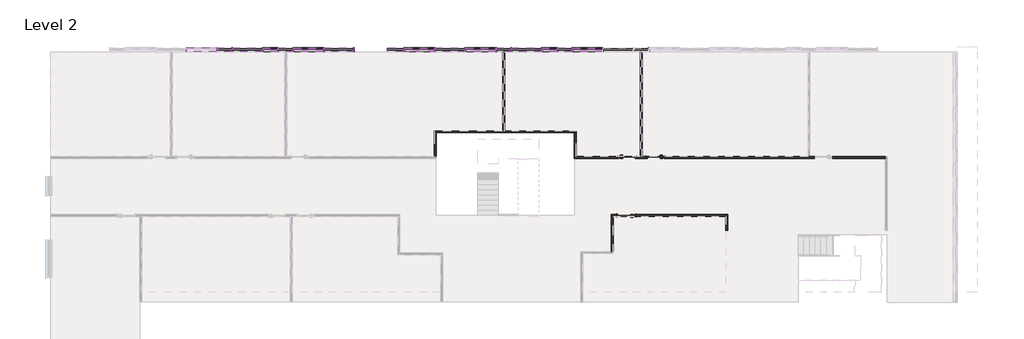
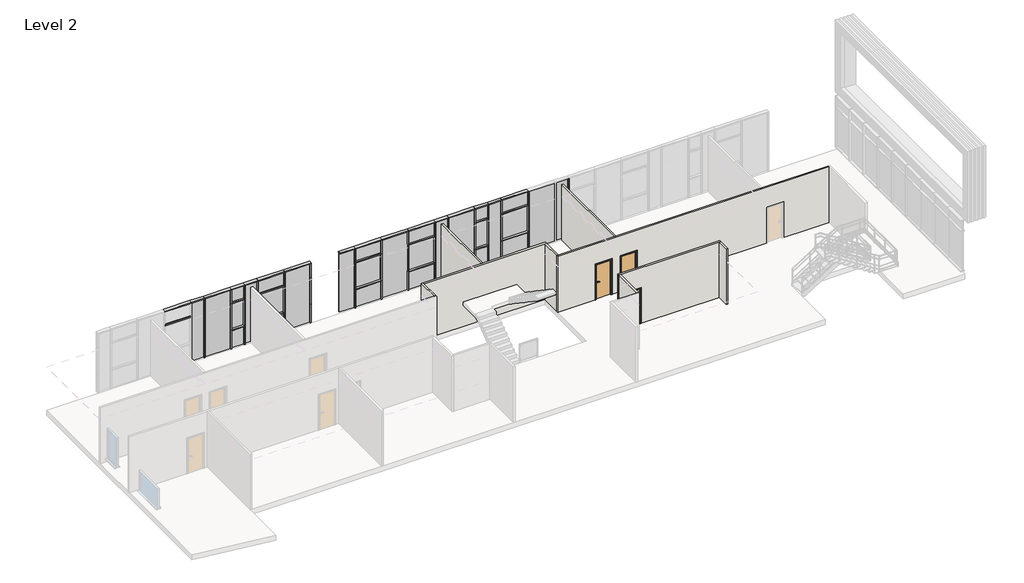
# One storey, part 3 of 7: 77 members, 29 plates, 9 walls, 3 doors.
"""IFC4 building model written with IfcOpenShell, lengths in millimetres."""

from ifc_helpers import new_model, si_unit, frame, origin, place, context, project, spatial, polyline, outline, extrude, faceted_brep, transform, mapped, element, save
from components import doors_intsgl_1_910x2110mm_004a08d5, doors_intsgl_1_910x2110mm_ba118736, rectangular_mullion_50x180mm_27940352, rectangular_mullion_50x180mm_f781141c, rectangular_mullion_50x180mm_fd91253e, rectangular_mullion_50x180mm_cfc9efda, rectangular_mullion_50x180mm_c30fec06, rectangular_mullion_50x180mm_55b63a96, rectangular_mullion_50x180mm_95299f7d, rectangular_mullion_50x180mm_7153291d, rectangular_mullion_50x180mm_44ee472d, rectangular_mullion_50x180mm_bfae1b57, rectangular_mullion_50x180mm_1c28dd9e, system_panel_black_panel_33968e5e, system_panel_black_panel_b553a8d2, system_panel_black_panel_68769a9a, system_panel_dark_grey_panel_97f951a3, system_panel_dark_grey_panel_4b19a003, system_panel_dark_grey_panel_97a7edae, system_panel_glazed_dd63f223, system_panel_glazed_4915e1a0, system_panel_white_panel_6a64f577, system_panel_white_panel_a9ca731a, system_panel_white_panel_dc489aa2, system_panel_white_panel_659cbcf8

model = new_model("IFC4")

# Units and contexts
model_context = context("Model", 3, world=origin())
ifc_project = project(units=[si_unit("LENGTHUNIT", "METRE", prefix="MILLI")], contexts=[model_context])

# Site, building, storey
site = spatial("IfcSite", under=ifc_project)
building = spatial("IfcBuilding", under=site)
storey = spatial("IfcBuildingStorey", under=building, Name="Level 2", Elevation=7450.0)

# Doors
placement = place(None, origin())
doors_intsgl_1_910x2110mm_shape = doors_intsgl_1_910x2110mm_004a08d5(model_context)
element("IfcDoor", 1, ObjectType="Doors_IntSgl_1 : 910x2110mm", at=placement, inside=storey, context=model_context, shape_type="MappedRepresentation", body=[
    mapped(doors_intsgl_1_910x2110mm_shape, transform((26878.2942367, 3837.3025486, 7450.0), x_axis=(1.0, 0.0, 0.0), y_axis=(0.0, 1.0, 0.0), z_axis=(0.0, 0.0, 1.0))),
])
element("IfcDoor", 2, ObjectType="Doors_IntSgl_1 : 910x2110mm", at=placement, inside=storey, context=model_context, shape_type="MappedRepresentation", body=[
    mapped(doors_intsgl_1_910x2110mm_shape, transform((26848.2942367, 987.4946591, 7450.0), x_axis=(-1.0, 0.0, 0.0), y_axis=(0.0, -1.0, 0.0), z_axis=(0.0, 0.0, 1.0))),
])
doors_intsgl_1_910x2110mm_2_shape = doors_intsgl_1_910x2110mm_ba118736(model_context)
element("IfcDoor", 3, ObjectType="Doors_IntSgl_1 : 910x2110mm", at=placement, inside=storey, context=model_context, shape_type="MappedRepresentation", body=[
    mapped(doors_intsgl_1_910x2110mm_2_shape, transform((28283.2942367, 3837.3025486, 7450.0), x_axis=(-1.0, 0.0, 0.0), y_axis=(0.0, -1.0, 0.0), z_axis=(0.0, 0.0, 1.0))),
])

# Members
rectangular_mullion_50x180mm_shape = rectangular_mullion_50x180mm_27940352(model_context)
element("IfcMember", 4, ObjectType="Rectangular Mullion : 50x180mm", at=placement, inside=storey, context=model_context, shape_type="MappedRepresentation", body=[
    mapped(rectangular_mullion_50x180mm_shape, transform((27943.2942367, 9132.4946591, 7450.0), x_axis=(1.0, 0.0, 0.0), y_axis=(0.0, -1.0, 0.0), z_axis=(0.0, 0.0, -1.0))),
])
element("IfcMember", 5, ObjectType="Rectangular Mullion : 50x180mm", at=placement, inside=storey, context=model_context, shape_type="MappedRepresentation", body=[
    mapped(rectangular_mullion_50x180mm_shape, transform((25693.2942367, 9132.4946591, 7450.0), x_axis=(1.0, 0.0, 0.0), y_axis=(0.0, -1.0, 0.0), z_axis=(0.0, 0.0, -1.0))),
])
element("IfcMember", 6, ObjectType="Rectangular Mullion : 50x180mm", at=placement, inside=storey, context=model_context, shape_type="MappedRepresentation", body=[
    mapped(rectangular_mullion_50x180mm_shape, transform((24193.2942367, 9132.4946591, 7450.0), x_axis=(1.0, 0.0, 0.0), y_axis=(0.0, -1.0, 0.0), z_axis=(0.0, 0.0, -1.0))),
])
element("IfcMember", 7, ObjectType="Rectangular Mullion : 50x180mm", at=placement, inside=storey, context=model_context, shape_type="MappedRepresentation", body=[
    mapped(rectangular_mullion_50x180mm_shape, transform((23443.2942367, 9132.4946591, 7450.0), x_axis=(1.0, 0.0, 0.0), y_axis=(0.0, -1.0, 0.0), z_axis=(0.0, 0.0, -1.0))),
])
element("IfcMember", 8, ObjectType="Rectangular Mullion : 50x180mm", at=placement, inside=storey, context=model_context, shape_type="MappedRepresentation", body=[
    mapped(rectangular_mullion_50x180mm_shape, transform((22693.2942367, 9132.4946591, 7450.0), x_axis=(1.0, 0.0, 0.0), y_axis=(0.0, -1.0, 0.0), z_axis=(0.0, 0.0, -1.0))),
])
element("IfcMember", 9, ObjectType="Rectangular Mullion : 50x180mm", at=placement, inside=storey, context=model_context, shape_type="MappedRepresentation", body=[
    mapped(rectangular_mullion_50x180mm_shape, transform((20443.2942367, 9132.4946591, 7450.0), x_axis=(1.0, 0.0, 0.0), y_axis=(0.0, -1.0, 0.0), z_axis=(0.0, 0.0, -1.0))),
])
element("IfcMember", 10, ObjectType="Rectangular Mullion : 50x180mm", at=placement, inside=storey, context=model_context, shape_type="MappedRepresentation", body=[
    mapped(rectangular_mullion_50x180mm_shape, transform((18943.2942367, 9132.4946591, 7450.0), x_axis=(1.0, 0.0, 0.0), y_axis=(0.0, -1.0, 0.0), z_axis=(0.0, 0.0, -1.0))),
])
element("IfcMember", 11, ObjectType="Rectangular Mullion : 50x180mm", at=placement, inside=storey, context=model_context, shape_type="MappedRepresentation", body=[
    mapped(rectangular_mullion_50x180mm_shape, transform((15943.2942367, 9132.4946591, 7450.0), x_axis=(1.0, 0.0, 0.0), y_axis=(0.0, -1.0, 0.0), z_axis=(0.0, 0.0, -1.0))),
])
element("IfcMember", 12, ObjectType="Rectangular Mullion : 50x180mm", at=placement, inside=storey, context=model_context, shape_type="MappedRepresentation", body=[
    mapped(rectangular_mullion_50x180mm_shape, transform((17443.2942367, 9132.4946591, 7450.0), x_axis=(1.0, 0.0, 0.0), y_axis=(0.0, -1.0, 0.0), z_axis=(0.0, 0.0, -1.0))),
])
element("IfcMember", 13, ObjectType="Rectangular Mullion : 50x180mm", at=placement, inside=storey, context=model_context, shape_type="MappedRepresentation", body=[
    mapped(rectangular_mullion_50x180mm_shape, transform((11980.7942367, 9132.4946591, 7450.0), x_axis=(1.0, 0.0, 0.0), y_axis=(0.0, -1.0, 0.0), z_axis=(0.0, 0.0, -1.0))),
])
element("IfcMember", 14, ObjectType="Rectangular Mullion : 50x180mm", at=placement, inside=storey, context=model_context, shape_type="MappedRepresentation", body=[
    mapped(rectangular_mullion_50x180mm_shape, transform((10480.7942367, 9132.4946591, 7450.0), x_axis=(1.0, 0.0, 0.0), y_axis=(0.0, -1.0, 0.0), z_axis=(0.0, 0.0, -1.0))),
])
element("IfcMember", 15, ObjectType="Rectangular Mullion : 50x180mm", at=placement, inside=storey, context=model_context, shape_type="MappedRepresentation", body=[
    mapped(rectangular_mullion_50x180mm_shape, transform((9730.7942367, 9132.4946591, 7450.0), x_axis=(1.0, 0.0, 0.0), y_axis=(0.0, -1.0, 0.0), z_axis=(0.0, 0.0, -1.0))),
])
element("IfcMember", 16, ObjectType="Rectangular Mullion : 50x180mm", at=placement, inside=storey, context=model_context, shape_type="MappedRepresentation", body=[
    mapped(rectangular_mullion_50x180mm_shape, transform((8980.7942367, 9132.4946591, 7450.0), x_axis=(1.0, 0.0, 0.0), y_axis=(0.0, -1.0, 0.0), z_axis=(0.0, 0.0, -1.0))),
])
element("IfcMember", 17, ObjectType="Rectangular Mullion : 50x180mm", at=placement, inside=storey, context=model_context, shape_type="MappedRepresentation", body=[
    mapped(rectangular_mullion_50x180mm_shape, transform((21193.2942367, 9132.4946591, 7450.0), x_axis=(1.0, 0.0, 0.0), y_axis=(0.0, -1.0, 0.0), z_axis=(0.0, 0.0, -1.0))),
])
element("IfcMember", 18, ObjectType="Rectangular Mullion : 50x180mm", at=placement, inside=storey, context=model_context, shape_type="MappedRepresentation", body=[
    mapped(rectangular_mullion_50x180mm_shape, transform((7480.7942367, 9132.4946591, 7450.0), x_axis=(1.0, 0.0, 0.0), y_axis=(0.0, -1.0, 0.0), z_axis=(0.0, 0.0, -1.0))),
])
rectangular_mullion_50x180mm_2_shape = rectangular_mullion_50x180mm_f781141c(model_context)
element("IfcMember", 19, ObjectType="Rectangular Mullion : 50x180mm", at=placement, inside=storey, context=model_context, shape_type="MappedRepresentation", body=[
    mapped(rectangular_mullion_50x180mm_2_shape, transform((27943.2942367, 9132.4946591, 8550.0), x_axis=(1.0, 0.0, 0.0), y_axis=(0.0, -1.0, 0.0), z_axis=(0.0, 0.0, -1.0))),
])
element("IfcMember", 20, ObjectType="Rectangular Mullion : 50x180mm", at=placement, inside=storey, context=model_context, shape_type="MappedRepresentation", body=[
    mapped(rectangular_mullion_50x180mm_2_shape, transform((15943.2942367, 9132.4946591, 8550.0), x_axis=(1.0, 0.0, 0.0), y_axis=(0.0, -1.0, 0.0), z_axis=(0.0, 0.0, -1.0))),
])
element("IfcMember", 21, ObjectType="Rectangular Mullion : 50x180mm", at=placement, inside=storey, context=model_context, shape_type="MappedRepresentation", body=[
    mapped(rectangular_mullion_50x180mm_2_shape, transform((17443.2942367, 9132.4946591, 8550.0), x_axis=(1.0, 0.0, 0.0), y_axis=(0.0, -1.0, 0.0), z_axis=(0.0, 0.0, -1.0))),
])
element("IfcMember", 22, ObjectType="Rectangular Mullion : 50x180mm", at=placement, inside=storey, context=model_context, shape_type="MappedRepresentation", body=[
    mapped(rectangular_mullion_50x180mm_2_shape, transform((18943.2942367, 9132.4946591, 8550.0), x_axis=(1.0, 0.0, 0.0), y_axis=(0.0, -1.0, 0.0), z_axis=(0.0, 0.0, -1.0))),
])
element("IfcMember", 23, ObjectType="Rectangular Mullion : 50x180mm", at=placement, inside=storey, context=model_context, shape_type="MappedRepresentation", body=[
    mapped(rectangular_mullion_50x180mm_2_shape, transform((20443.2942367, 9132.4946591, 8550.0), x_axis=(1.0, 0.0, 0.0), y_axis=(0.0, -1.0, 0.0), z_axis=(0.0, 0.0, -1.0))),
])
element("IfcMember", 24, ObjectType="Rectangular Mullion : 50x180mm", at=placement, inside=storey, context=model_context, shape_type="MappedRepresentation", body=[
    mapped(rectangular_mullion_50x180mm_2_shape, transform((22693.2942367, 9132.4946591, 8550.0), x_axis=(1.0, 0.0, 0.0), y_axis=(0.0, -1.0, 0.0), z_axis=(0.0, 0.0, -1.0))),
])
element("IfcMember", 25, ObjectType="Rectangular Mullion : 50x180mm", at=placement, inside=storey, context=model_context, shape_type="MappedRepresentation", body=[
    mapped(rectangular_mullion_50x180mm_2_shape, transform((23443.2942367, 9132.4946591, 8550.0), x_axis=(1.0, 0.0, 0.0), y_axis=(0.0, -1.0, 0.0), z_axis=(0.0, 0.0, -1.0))),
])
element("IfcMember", 26, ObjectType="Rectangular Mullion : 50x180mm", at=placement, inside=storey, context=model_context, shape_type="MappedRepresentation", body=[
    mapped(rectangular_mullion_50x180mm_2_shape, transform((24193.2942367, 9132.4946591, 8550.0), x_axis=(1.0, 0.0, 0.0), y_axis=(0.0, -1.0, 0.0), z_axis=(0.0, 0.0, -1.0))),
])
element("IfcMember", 27, ObjectType="Rectangular Mullion : 50x180mm", at=placement, inside=storey, context=model_context, shape_type="MappedRepresentation", body=[
    mapped(rectangular_mullion_50x180mm_2_shape, transform((25693.2942367, 9132.4946591, 8550.0), x_axis=(1.0, 0.0, 0.0), y_axis=(0.0, -1.0, 0.0), z_axis=(0.0, 0.0, -1.0))),
])
element("IfcMember", 28, ObjectType="Rectangular Mullion : 50x180mm", at=placement, inside=storey, context=model_context, shape_type="MappedRepresentation", body=[
    mapped(rectangular_mullion_50x180mm_2_shape, transform((8980.7942367, 9132.4946591, 8550.0), x_axis=(1.0, 0.0, 0.0), y_axis=(0.0, -1.0, 0.0), z_axis=(0.0, 0.0, -1.0))),
])
element("IfcMember", 29, ObjectType="Rectangular Mullion : 50x180mm", at=placement, inside=storey, context=model_context, shape_type="MappedRepresentation", body=[
    mapped(rectangular_mullion_50x180mm_2_shape, transform((9730.7942367, 9132.4946591, 8550.0), x_axis=(1.0, 0.0, 0.0), y_axis=(0.0, -1.0, 0.0), z_axis=(0.0, 0.0, -1.0))),
])
element("IfcMember", 30, ObjectType="Rectangular Mullion : 50x180mm", at=placement, inside=storey, context=model_context, shape_type="MappedRepresentation", body=[
    mapped(rectangular_mullion_50x180mm_2_shape, transform((10480.7942367, 9132.4946591, 8550.0), x_axis=(1.0, 0.0, 0.0), y_axis=(0.0, -1.0, 0.0), z_axis=(0.0, 0.0, -1.0))),
])
element("IfcMember", 31, ObjectType="Rectangular Mullion : 50x180mm", at=placement, inside=storey, context=model_context, shape_type="MappedRepresentation", body=[
    mapped(rectangular_mullion_50x180mm_2_shape, transform((11980.7942367, 9132.4946591, 8550.0), x_axis=(1.0, 0.0, 0.0), y_axis=(0.0, -1.0, 0.0), z_axis=(0.0, 0.0, -1.0))),
])
element("IfcMember", 32, ObjectType="Rectangular Mullion : 50x180mm", at=placement, inside=storey, context=model_context, shape_type="MappedRepresentation", body=[
    mapped(rectangular_mullion_50x180mm_2_shape, transform((21193.2942367, 9132.4946591, 8550.0), x_axis=(1.0, 0.0, 0.0), y_axis=(0.0, -1.0, 0.0), z_axis=(0.0, 0.0, -1.0))),
])
element("IfcMember", 33, ObjectType="Rectangular Mullion : 50x180mm", at=placement, inside=storey, context=model_context, shape_type="MappedRepresentation", body=[
    mapped(rectangular_mullion_50x180mm_2_shape, transform((7480.7942367, 9132.4946591, 8550.0), x_axis=(1.0, 0.0, 0.0), y_axis=(0.0, -1.0, 0.0), z_axis=(0.0, 0.0, -1.0))),
])
rectangular_mullion_50x180mm_3_shape = rectangular_mullion_50x180mm_fd91253e(model_context)
element("IfcMember", 34, ObjectType="Rectangular Mullion : 50x180mm", at=placement, inside=storey, context=model_context, shape_type="MappedRepresentation", body=[
    mapped(rectangular_mullion_50x180mm_3_shape, transform((25668.2942367, 9132.4946591, 8550.0), x_axis=(0.0, 0.0, 1.0), y_axis=(0.0, -1.0, 0.0), z_axis=(1.0, 0.0, 0.0))),
])
element("IfcMember", 35, ObjectType="Rectangular Mullion : 50x180mm", at=placement, inside=storey, context=model_context, shape_type="MappedRepresentation", body=[
    mapped(rectangular_mullion_50x180mm_3_shape, transform((25668.2942367, 9132.4946591, 10150.0), x_axis=(0.0, 0.0, 1.0), y_axis=(0.0, -1.0, 0.0), z_axis=(1.0, 0.0, 0.0))),
])
element("IfcMember", 36, ObjectType="Rectangular Mullion : 50x180mm", at=placement, inside=storey, context=model_context, shape_type="MappedRepresentation", body=[
    mapped(rectangular_mullion_50x180mm_3_shape, transform((17418.2942367, 9132.4946591, 8550.0), x_axis=(0.0, 0.0, 1.0), y_axis=(0.0, -1.0, 0.0), z_axis=(1.0, 0.0, 0.0))),
])
element("IfcMember", 37, ObjectType="Rectangular Mullion : 50x180mm", at=placement, inside=storey, context=model_context, shape_type="MappedRepresentation", body=[
    mapped(rectangular_mullion_50x180mm_3_shape, transform((20418.2942367, 9132.4946591, 8550.0), x_axis=(0.0, 0.0, 1.0), y_axis=(0.0, -1.0, 0.0), z_axis=(1.0, 0.0, 0.0))),
])
element("IfcMember", 38, ObjectType="Rectangular Mullion : 50x180mm", at=placement, inside=storey, context=model_context, shape_type="MappedRepresentation", body=[
    mapped(rectangular_mullion_50x180mm_3_shape, transform((17418.2942367, 9132.4946591, 10150.0), x_axis=(0.0, 0.0, 1.0), y_axis=(0.0, -1.0, 0.0), z_axis=(1.0, 0.0, 0.0))),
])
element("IfcMember", 39, ObjectType="Rectangular Mullion : 50x180mm", at=placement, inside=storey, context=model_context, shape_type="MappedRepresentation", body=[
    mapped(rectangular_mullion_50x180mm_3_shape, transform((20418.2942367, 9132.4946591, 10150.0), x_axis=(0.0, 0.0, 1.0), y_axis=(0.0, -1.0, 0.0), z_axis=(1.0, 0.0, 0.0))),
])
element("IfcMember", 40, ObjectType="Rectangular Mullion : 50x180mm", at=placement, inside=storey, context=model_context, shape_type="MappedRepresentation", body=[
    mapped(rectangular_mullion_50x180mm_3_shape, transform((11955.7942367, 9132.4946591, 8550.0), x_axis=(0.0, 0.0, 1.0), y_axis=(0.0, -1.0, 0.0), z_axis=(1.0, 0.0, 0.0))),
])
element("IfcMember", 41, ObjectType="Rectangular Mullion : 50x180mm", at=placement, inside=storey, context=model_context, shape_type="MappedRepresentation", body=[
    mapped(rectangular_mullion_50x180mm_3_shape, transform((11955.7942367, 9132.4946591, 10150.0), x_axis=(0.0, 0.0, 1.0), y_axis=(0.0, -1.0, 0.0), z_axis=(1.0, 0.0, 0.0))),
])
element("IfcMember", 42, ObjectType="Rectangular Mullion : 50x180mm", at=placement, inside=storey, context=model_context, shape_type="MappedRepresentation", body=[
    mapped(rectangular_mullion_50x180mm_3_shape, transform((6705.7942367, 9132.4946591, 10150.0), x_axis=(0.0, 0.0, 1.0), y_axis=(0.0, -1.0, 0.0), z_axis=(1.0, 0.0, 0.0))),
])
rectangular_mullion_50x180mm_4_shape = rectangular_mullion_50x180mm_cfc9efda(model_context)
element("IfcMember", 43, ObjectType="Rectangular Mullion : 50x180mm", at=placement, inside=storey, context=model_context, shape_type="MappedRepresentation", body=[
    mapped(rectangular_mullion_50x180mm_4_shape, transform((23418.2942367, 9132.4946591, 10150.0), x_axis=(0.0, 0.0, 1.0), y_axis=(0.0, -1.0, 0.0), z_axis=(1.0, 0.0, 0.0))),
])
element("IfcMember", 44, ObjectType="Rectangular Mullion : 50x180mm", at=placement, inside=storey, context=model_context, shape_type="MappedRepresentation", body=[
    mapped(rectangular_mullion_50x180mm_4_shape, transform((23418.2942367, 9132.4946591, 8550.0), x_axis=(0.0, 0.0, 1.0), y_axis=(0.0, -1.0, 0.0), z_axis=(1.0, 0.0, 0.0))),
])
element("IfcMember", 45, ObjectType="Rectangular Mullion : 50x180mm", at=placement, inside=storey, context=model_context, shape_type="MappedRepresentation", body=[
    mapped(rectangular_mullion_50x180mm_4_shape, transform((9705.7942367, 9132.4946591, 10150.0), x_axis=(0.0, 0.0, 1.0), y_axis=(0.0, -1.0, 0.0), z_axis=(1.0, 0.0, 0.0))),
])
element("IfcMember", 46, ObjectType="Rectangular Mullion : 50x180mm", at=placement, inside=storey, context=model_context, shape_type="MappedRepresentation", body=[
    mapped(rectangular_mullion_50x180mm_4_shape, transform((9705.7942367, 9132.4946591, 8550.0), x_axis=(0.0, 0.0, 1.0), y_axis=(0.0, -1.0, 0.0), z_axis=(1.0, 0.0, 0.0))),
])
rectangular_mullion_50x180mm_5_shape = rectangular_mullion_50x180mm_c30fec06(model_context)
element("IfcMember", 47, ObjectType="Rectangular Mullion : 50x180mm", at=placement, inside=storey, context=model_context, shape_type="MappedRepresentation", body=[
    mapped(rectangular_mullion_50x180mm_5_shape, transform((17443.2942367, 9132.4946591, 11000.0), x_axis=(0.0, 0.0, 1.0), y_axis=(0.0, -1.0, 0.0), z_axis=(1.0, 0.0, 0.0))),
])
element("IfcMember", 48, ObjectType="Rectangular Mullion : 50x180mm", at=placement, inside=storey, context=model_context, shape_type="MappedRepresentation", body=[
    mapped(rectangular_mullion_50x180mm_5_shape, transform((18943.2942367, 9132.4946591, 11000.0), x_axis=(0.0, 0.0, 1.0), y_axis=(0.0, -1.0, 0.0), z_axis=(1.0, 0.0, 0.0))),
])
element("IfcMember", 49, ObjectType="Rectangular Mullion : 50x180mm", at=placement, inside=storey, context=model_context, shape_type="MappedRepresentation", body=[
    mapped(rectangular_mullion_50x180mm_5_shape, transform((20443.2942367, 9132.4946591, 11000.0), x_axis=(0.0, 0.0, 1.0), y_axis=(0.0, -1.0, 0.0), z_axis=(1.0, 0.0, 0.0))),
])
element("IfcMember", 50, ObjectType="Rectangular Mullion : 50x180mm", at=placement, inside=storey, context=model_context, shape_type="MappedRepresentation", body=[
    mapped(rectangular_mullion_50x180mm_5_shape, transform((22693.2942367, 9132.4946591, 11000.0), x_axis=(0.0, 0.0, 1.0), y_axis=(0.0, -1.0, 0.0), z_axis=(1.0, 0.0, 0.0))),
])
element("IfcMember", 51, ObjectType="Rectangular Mullion : 50x180mm", at=placement, inside=storey, context=model_context, shape_type="MappedRepresentation", body=[
    mapped(rectangular_mullion_50x180mm_5_shape, transform((25693.2942367, 9132.4946591, 11000.0), x_axis=(0.0, 0.0, 1.0), y_axis=(0.0, -1.0, 0.0), z_axis=(1.0, 0.0, 0.0))),
])
element("IfcMember", 52, ObjectType="Rectangular Mullion : 50x180mm", at=placement, inside=storey, context=model_context, shape_type="MappedRepresentation", body=[
    mapped(rectangular_mullion_50x180mm_5_shape, transform((6730.7942367, 9132.4946591, 11000.0), x_axis=(0.0, 0.0, 1.0), y_axis=(0.0, -1.0, 0.0), z_axis=(1.0, 0.0, 0.0))),
])
element("IfcMember", 53, ObjectType="Rectangular Mullion : 50x180mm", at=placement, inside=storey, context=model_context, shape_type="MappedRepresentation", body=[
    mapped(rectangular_mullion_50x180mm_5_shape, transform((8980.7942367, 9132.4946591, 11000.0), x_axis=(0.0, 0.0, 1.0), y_axis=(0.0, -1.0, 0.0), z_axis=(1.0, 0.0, 0.0))),
])
element("IfcMember", 54, ObjectType="Rectangular Mullion : 50x180mm", at=placement, inside=storey, context=model_context, shape_type="MappedRepresentation", body=[
    mapped(rectangular_mullion_50x180mm_5_shape, transform((11980.7942367, 9132.4946591, 11000.0), x_axis=(0.0, 0.0, 1.0), y_axis=(0.0, -1.0, 0.0), z_axis=(1.0, 0.0, 0.0))),
])
rectangular_mullion_50x180mm_6_shape = rectangular_mullion_50x180mm_55b63a96(model_context)
element("IfcMember", 55, ObjectType="Rectangular Mullion : 50x180mm", at=placement, inside=storey, context=model_context, shape_type="MappedRepresentation", body=[
    mapped(rectangular_mullion_50x180mm_6_shape, transform((21193.2942367, 9132.4946591, 11000.0), x_axis=(0.0, 0.0, 1.0), y_axis=(0.0, -1.0, 0.0), z_axis=(1.0, 0.0, 0.0))),
])
element("IfcMember", 56, ObjectType="Rectangular Mullion : 50x180mm", at=placement, inside=storey, context=model_context, shape_type="MappedRepresentation", body=[
    mapped(rectangular_mullion_50x180mm_6_shape, transform((23443.2942367, 9132.4946591, 11000.0), x_axis=(0.0, 0.0, 1.0), y_axis=(0.0, -1.0, 0.0), z_axis=(1.0, 0.0, 0.0))),
])
element("IfcMember", 57, ObjectType="Rectangular Mullion : 50x180mm", at=placement, inside=storey, context=model_context, shape_type="MappedRepresentation", body=[
    mapped(rectangular_mullion_50x180mm_6_shape, transform((24193.2942367, 9132.4946591, 11000.0), x_axis=(0.0, 0.0, 1.0), y_axis=(0.0, -1.0, 0.0), z_axis=(1.0, 0.0, 0.0))),
])
element("IfcMember", 58, ObjectType="Rectangular Mullion : 50x180mm", at=placement, inside=storey, context=model_context, shape_type="MappedRepresentation", body=[
    mapped(rectangular_mullion_50x180mm_6_shape, transform((7480.7942367, 9132.4946591, 11000.0), x_axis=(0.0, 0.0, 1.0), y_axis=(0.0, -1.0, 0.0), z_axis=(1.0, 0.0, 0.0))),
])
element("IfcMember", 59, ObjectType="Rectangular Mullion : 50x180mm", at=placement, inside=storey, context=model_context, shape_type="MappedRepresentation", body=[
    mapped(rectangular_mullion_50x180mm_6_shape, transform((9730.7942367, 9132.4946591, 11000.0), x_axis=(0.0, 0.0, 1.0), y_axis=(0.0, -1.0, 0.0), z_axis=(1.0, 0.0, 0.0))),
])
element("IfcMember", 60, ObjectType="Rectangular Mullion : 50x180mm", at=placement, inside=storey, context=model_context, shape_type="MappedRepresentation", body=[
    mapped(rectangular_mullion_50x180mm_6_shape, transform((10480.7942367, 9132.4946591, 11000.0), x_axis=(0.0, 0.0, 1.0), y_axis=(0.0, -1.0, 0.0), z_axis=(1.0, 0.0, 0.0))),
])
element("IfcMember", 61, ObjectType="Rectangular Mullion : 50x180mm", at=placement, inside=storey, context=model_context, shape_type="MappedRepresentation", body=[
    mapped(rectangular_mullion_50x180mm_5_shape, transform((13480.7942367, 9132.4946591, 11000.0), x_axis=(0.0, 0.0, 1.0), y_axis=(0.0, -1.0, 0.0), z_axis=(1.0, 0.0, 0.0))),
])
rectangular_mullion_50x180mm_7_shape = rectangular_mullion_50x180mm_95299f7d(model_context)
element("IfcMember", 62, ObjectType="Rectangular Mullion : 50x180mm", at=placement, inside=storey, context=model_context, shape_type="MappedRepresentation", body=[
    mapped(rectangular_mullion_50x180mm_7_shape, transform((13480.7942367, 9132.4946591, 8550.0), x_axis=(1.0, 0.0, 0.0), y_axis=(0.0, -1.0, 0.0), z_axis=(0.0, 0.0, -1.0))),
])
rectangular_mullion_50x180mm_8_shape = rectangular_mullion_50x180mm_7153291d(model_context)
element("IfcMember", 63, ObjectType="Rectangular Mullion : 50x180mm", at=placement, inside=storey, context=model_context, shape_type="MappedRepresentation", body=[
    mapped(rectangular_mullion_50x180mm_8_shape, transform((13480.7942367, 9132.4946591, 7450.0), x_axis=(1.0, 0.0, 0.0), y_axis=(0.0, -1.0, 0.0), z_axis=(0.0, 0.0, -1.0))),
])
rectangular_mullion_50x180mm_9_shape = rectangular_mullion_50x180mm_44ee472d(model_context)
element("IfcMember", 64, ObjectType="Rectangular Mullion : 50x180mm", at=placement, inside=storey, context=model_context, shape_type="MappedRepresentation", body=[
    mapped(rectangular_mullion_50x180mm_9_shape, transform((15943.2942367, 9132.4946591, 11000.0), x_axis=(0.0, 0.0, 1.0), y_axis=(0.0, -1.0, 0.0), z_axis=(1.0, 0.0, 0.0))),
])
rectangular_mullion_50x180mm_10_shape = rectangular_mullion_50x180mm_bfae1b57(model_context)
element("IfcMember", 65, ObjectType="Rectangular Mullion : 50x180mm", at=placement, inside=storey, context=model_context, shape_type="MappedRepresentation", body=[
    mapped(rectangular_mullion_50x180mm_10_shape, transform((27943.2942367, 9132.4946591, 10150.0), x_axis=(1.0, 0.0, 0.0), y_axis=(0.0, -1.0, 0.0), z_axis=(0.0, 0.0, -1.0))),
])
element("IfcMember", 66, ObjectType="Rectangular Mullion : 50x180mm", at=placement, inside=storey, context=model_context, shape_type="MappedRepresentation", body=[
    mapped(rectangular_mullion_50x180mm_10_shape, transform((22693.2942367, 9132.4946591, 10150.0), x_axis=(1.0, 0.0, 0.0), y_axis=(0.0, -1.0, 0.0), z_axis=(0.0, 0.0, -1.0))),
])
element("IfcMember", 67, ObjectType="Rectangular Mullion : 50x180mm", at=placement, inside=storey, context=model_context, shape_type="MappedRepresentation", body=[
    mapped(rectangular_mullion_50x180mm_10_shape, transform((23443.2942367, 9132.4946591, 10150.0), x_axis=(1.0, 0.0, 0.0), y_axis=(0.0, -1.0, 0.0), z_axis=(0.0, 0.0, -1.0))),
])
element("IfcMember", 68, ObjectType="Rectangular Mullion : 50x180mm", at=placement, inside=storey, context=model_context, shape_type="MappedRepresentation", body=[
    mapped(rectangular_mullion_50x180mm_10_shape, transform((24193.2942367, 9132.4946591, 10150.0), x_axis=(1.0, 0.0, 0.0), y_axis=(0.0, -1.0, 0.0), z_axis=(0.0, 0.0, -1.0))),
])
element("IfcMember", 69, ObjectType="Rectangular Mullion : 50x180mm", at=placement, inside=storey, context=model_context, shape_type="MappedRepresentation", body=[
    mapped(rectangular_mullion_50x180mm_10_shape, transform((25693.2942367, 9132.4946591, 10150.0), x_axis=(1.0, 0.0, 0.0), y_axis=(0.0, -1.0, 0.0), z_axis=(0.0, 0.0, -1.0))),
])
element("IfcMember", 70, ObjectType="Rectangular Mullion : 50x180mm", at=placement, inside=storey, context=model_context, shape_type="MappedRepresentation", body=[
    mapped(rectangular_mullion_50x180mm_10_shape, transform((20443.2942367, 9132.4946591, 10150.0), x_axis=(1.0, 0.0, 0.0), y_axis=(0.0, -1.0, 0.0), z_axis=(0.0, 0.0, -1.0))),
])
element("IfcMember", 71, ObjectType="Rectangular Mullion : 50x180mm", at=placement, inside=storey, context=model_context, shape_type="MappedRepresentation", body=[
    mapped(rectangular_mullion_50x180mm_10_shape, transform((18943.2942367, 9132.4946591, 10150.0), x_axis=(1.0, 0.0, 0.0), y_axis=(0.0, -1.0, 0.0), z_axis=(0.0, 0.0, -1.0))),
])
element("IfcMember", 72, ObjectType="Rectangular Mullion : 50x180mm", at=placement, inside=storey, context=model_context, shape_type="MappedRepresentation", body=[
    mapped(rectangular_mullion_50x180mm_10_shape, transform((15943.2942367, 9132.4946591, 10150.0), x_axis=(1.0, 0.0, 0.0), y_axis=(0.0, -1.0, 0.0), z_axis=(0.0, 0.0, -1.0))),
])
element("IfcMember", 73, ObjectType="Rectangular Mullion : 50x180mm", at=placement, inside=storey, context=model_context, shape_type="MappedRepresentation", body=[
    mapped(rectangular_mullion_50x180mm_10_shape, transform((17443.2942367, 9132.4946591, 10150.0), x_axis=(1.0, 0.0, 0.0), y_axis=(0.0, -1.0, 0.0), z_axis=(0.0, 0.0, -1.0))),
])
element("IfcMember", 74, ObjectType="Rectangular Mullion : 50x180mm", at=placement, inside=storey, context=model_context, shape_type="MappedRepresentation", body=[
    mapped(rectangular_mullion_50x180mm_10_shape, transform((8980.7942367, 9132.4946591, 10150.0), x_axis=(1.0, 0.0, 0.0), y_axis=(0.0, -1.0, 0.0), z_axis=(0.0, 0.0, -1.0))),
])
element("IfcMember", 75, ObjectType="Rectangular Mullion : 50x180mm", at=placement, inside=storey, context=model_context, shape_type="MappedRepresentation", body=[
    mapped(rectangular_mullion_50x180mm_10_shape, transform((9730.7942367, 9132.4946591, 10150.0), x_axis=(1.0, 0.0, 0.0), y_axis=(0.0, -1.0, 0.0), z_axis=(0.0, 0.0, -1.0))),
])
element("IfcMember", 76, ObjectType="Rectangular Mullion : 50x180mm", at=placement, inside=storey, context=model_context, shape_type="MappedRepresentation", body=[
    mapped(rectangular_mullion_50x180mm_10_shape, transform((10480.7942367, 9132.4946591, 10150.0), x_axis=(1.0, 0.0, 0.0), y_axis=(0.0, -1.0, 0.0), z_axis=(0.0, 0.0, -1.0))),
])
element("IfcMember", 77, ObjectType="Rectangular Mullion : 50x180mm", at=placement, inside=storey, context=model_context, shape_type="MappedRepresentation", body=[
    mapped(rectangular_mullion_50x180mm_10_shape, transform((11980.7942367, 9132.4946591, 10150.0), x_axis=(1.0, 0.0, 0.0), y_axis=(0.0, -1.0, 0.0), z_axis=(0.0, 0.0, -1.0))),
])
element("IfcMember", 78, ObjectType="Rectangular Mullion : 50x180mm", at=placement, inside=storey, context=model_context, shape_type="MappedRepresentation", body=[
    mapped(rectangular_mullion_50x180mm_10_shape, transform((21193.2942367, 9132.4946591, 10150.0), x_axis=(1.0, 0.0, 0.0), y_axis=(0.0, -1.0, 0.0), z_axis=(0.0, 0.0, -1.0))),
])
element("IfcMember", 79, ObjectType="Rectangular Mullion : 50x180mm", at=placement, inside=storey, context=model_context, shape_type="MappedRepresentation", body=[
    mapped(rectangular_mullion_50x180mm_10_shape, transform((7480.7942367, 9132.4946591, 10150.0), x_axis=(1.0, 0.0, 0.0), y_axis=(0.0, -1.0, 0.0), z_axis=(0.0, 0.0, -1.0))),
])
rectangular_mullion_50x180mm_11_shape = rectangular_mullion_50x180mm_1c28dd9e(model_context)
element("IfcMember", 80, ObjectType="Rectangular Mullion : 50x180mm", at=placement, inside=storey, context=model_context, shape_type="MappedRepresentation", body=[
    mapped(rectangular_mullion_50x180mm_11_shape, transform((13480.7942367, 9132.4946591, 10150.0), x_axis=(1.0, 0.0, 0.0), y_axis=(0.0, -1.0, 0.0), z_axis=(0.0, 0.0, -1.0))),
])

# Plates
system_panel_black_panel_shape = system_panel_black_panel_33968e5e(model_context)
element("IfcPlate", 81, ObjectType="System Panel : Black-Panel", at=placement, inside=storey, context=model_context, shape_type="MappedRepresentation", body=[
    mapped(system_panel_black_panel_shape, transform((27580.7942367, 9132.4946591, 7450.0), x_axis=(1.0, 0.0, 0.0), y_axis=(0.0, 1.0, 0.0), z_axis=(0.0, 0.0, 1.0))),
])
system_panel_black_panel_2_shape = system_panel_black_panel_b553a8d2(model_context)
element("IfcPlate", 82, ObjectType="System Panel : Black-Panel", at=placement, inside=storey, context=model_context, shape_type="MappedRepresentation", body=[
    mapped(system_panel_black_panel_2_shape, transform((23818.2942367, 9132.4946591, 7450.0), x_axis=(1.0, 0.0, 0.0), y_axis=(0.0, 1.0, 0.0), z_axis=(0.0, 0.0, 1.0))),
])
element("IfcPlate", 83, ObjectType="System Panel : Black-Panel", at=placement, inside=storey, context=model_context, shape_type="MappedRepresentation", body=[
    mapped(system_panel_black_panel_2_shape, transform((20818.2942367, 9132.4946591, 7450.0), x_axis=(1.0, 0.0, 0.0), y_axis=(0.0, 1.0, 0.0), z_axis=(0.0, 0.0, 1.0))),
])
element("IfcPlate", 84, ObjectType="System Panel : Black-Panel", at=placement, inside=storey, context=model_context, shape_type="MappedRepresentation", body=[
    mapped(system_panel_black_panel_2_shape, transform((10105.7942367, 9132.4946591, 7450.0), x_axis=(1.0, 0.0, 0.0), y_axis=(0.0, 1.0, 0.0), z_axis=(0.0, 0.0, 1.0))),
])
element("IfcPlate", 85, ObjectType="System Panel : Black-Panel", at=placement, inside=storey, context=model_context, shape_type="MappedRepresentation", body=[
    mapped(system_panel_black_panel_2_shape, transform((7105.7942367, 9132.4946591, 7450.0), x_axis=(1.0, 0.0, 0.0), y_axis=(0.0, 1.0, 0.0), z_axis=(0.0, 0.0, 1.0))),
])
system_panel_black_panel_3_shape = system_panel_black_panel_68769a9a(model_context)
element("IfcPlate", 86, ObjectType="System Panel : Black-Panel", at=placement, inside=storey, context=model_context, shape_type="MappedRepresentation", body=[
    mapped(system_panel_black_panel_3_shape, transform((15512.0442367, 9132.4946591, 7450.0), x_axis=(1.0, 0.0, 0.0), y_axis=(0.0, 1.0, 0.0), z_axis=(0.0, 0.0, 1.0))),
])
system_panel_dark_grey_panel_shape = system_panel_dark_grey_panel_97f951a3(model_context)
element("IfcPlate", 87, ObjectType="System Panel : Dark Grey-Panel", at=placement, inside=storey, context=model_context, shape_type="MappedRepresentation", body=[
    mapped(system_panel_dark_grey_panel_shape, transform((12718.2942367, 9132.4946591, 7450.0), x_axis=(1.0, 0.0, 0.0), y_axis=(0.0, 1.0, 0.0), z_axis=(0.0, 0.0, 1.0))),
])
system_panel_dark_grey_panel_2_shape = system_panel_dark_grey_panel_4b19a003(model_context)
element("IfcPlate", 88, ObjectType="System Panel : Dark Grey-Panel", at=placement, inside=storey, context=model_context, shape_type="MappedRepresentation", body=[
    mapped(system_panel_dark_grey_panel_2_shape, transform((21943.2942367, 9132.4946591, 7450.0), x_axis=(1.0, 0.0, 0.0), y_axis=(0.0, 1.0, 0.0), z_axis=(0.0, 0.0, 1.0))),
])
element("IfcPlate", 89, ObjectType="System Panel : Dark Grey-Panel", at=placement, inside=storey, context=model_context, shape_type="MappedRepresentation", body=[
    mapped(system_panel_dark_grey_panel_2_shape, transform((18193.2942367, 9132.4946591, 7450.0), x_axis=(1.0, 0.0, 0.0), y_axis=(0.0, 1.0, 0.0), z_axis=(0.0, 0.0, 1.0))),
])
element("IfcPlate", 90, ObjectType="System Panel : Dark Grey-Panel", at=placement, inside=storey, context=model_context, shape_type="MappedRepresentation", body=[
    mapped(system_panel_dark_grey_panel_2_shape, transform((8230.7942367, 9132.4946591, 7450.0), x_axis=(1.0, 0.0, 0.0), y_axis=(0.0, 1.0, 0.0), z_axis=(0.0, 0.0, 1.0))),
])
system_panel_dark_grey_panel_3_shape = system_panel_dark_grey_panel_97a7edae(model_context)
element("IfcPlate", 91, ObjectType="System Panel : Dark Grey-Panel", at=placement, inside=storey, context=model_context, shape_type="MappedRepresentation", body=[
    mapped(system_panel_dark_grey_panel_3_shape, transform((26455.7942367, 9132.4946591, 7450.0), x_axis=(1.0, 0.0, 0.0), y_axis=(0.0, 1.0, 0.0), z_axis=(0.0, 0.0, 1.0))),
])
system_panel_glazed_shape = system_panel_glazed_dd63f223(model_context)
element("IfcPlate", 92, ObjectType="System Panel : Glazed", at=placement, inside=storey, context=model_context, shape_type="MappedRepresentation", body=[
    mapped(system_panel_glazed_shape, transform((23068.2942367, 9132.4946591, 8575.0), x_axis=(1.0, 0.0, 0.0), y_axis=(0.0, 1.0, 0.0), z_axis=(0.0, 0.0, 1.0))),
])
element("IfcPlate", 93, ObjectType="System Panel : Glazed", at=placement, inside=storey, context=model_context, shape_type="MappedRepresentation", body=[
    mapped(system_panel_glazed_shape, transform((9355.7942367, 9132.4946591, 8575.0), x_axis=(1.0, 0.0, 0.0), y_axis=(0.0, 1.0, 0.0), z_axis=(0.0, 0.0, 1.0))),
])
system_panel_glazed_2_shape = system_panel_glazed_4915e1a0(model_context)
element("IfcPlate", 94, ObjectType="System Panel : Glazed", at=placement, inside=storey, context=model_context, shape_type="MappedRepresentation", body=[
    mapped(system_panel_glazed_2_shape, transform((24943.2942367, 9132.4946591, 8575.0), x_axis=(1.0, 0.0, 0.0), y_axis=(0.0, 1.0, 0.0), z_axis=(0.0, 0.0, 1.0))),
])
element("IfcPlate", 95, ObjectType="System Panel : Glazed", at=placement, inside=storey, context=model_context, shape_type="MappedRepresentation", body=[
    mapped(system_panel_glazed_2_shape, transform((19693.2942367, 9132.4946591, 8575.0), x_axis=(1.0, 0.0, 0.0), y_axis=(0.0, 1.0, 0.0), z_axis=(0.0, 0.0, 1.0))),
])
element("IfcPlate", 96, ObjectType="System Panel : Glazed", at=placement, inside=storey, context=model_context, shape_type="MappedRepresentation", body=[
    mapped(system_panel_glazed_2_shape, transform((16693.2942367, 9132.4946591, 8575.0), x_axis=(1.0, 0.0, 0.0), y_axis=(0.0, 1.0, 0.0), z_axis=(0.0, 0.0, 1.0))),
])
element("IfcPlate", 97, ObjectType="System Panel : Glazed", at=placement, inside=storey, context=model_context, shape_type="MappedRepresentation", body=[
    mapped(system_panel_glazed_2_shape, transform((11230.7942367, 9132.4946591, 8575.0), x_axis=(1.0, 0.0, 0.0), y_axis=(0.0, 1.0, 0.0), z_axis=(0.0, 0.0, 1.0))),
])
system_panel_white_panel_shape = system_panel_white_panel_6a64f577(model_context)
element("IfcPlate", 98, ObjectType="System Panel : White-Panel", at=placement, inside=storey, context=model_context, shape_type="MappedRepresentation", body=[
    mapped(system_panel_white_panel_shape, transform((24943.2942367, 9132.4946591, 7450.0), x_axis=(1.0, 0.0, 0.0), y_axis=(0.0, 1.0, 0.0), z_axis=(0.0, 0.0, 1.0))),
])
element("IfcPlate", 99, ObjectType="System Panel : White-Panel", at=placement, inside=storey, context=model_context, shape_type="MappedRepresentation", body=[
    mapped(system_panel_white_panel_shape, transform((19693.2942367, 9132.4946591, 7450.0), x_axis=(1.0, 0.0, 0.0), y_axis=(0.0, 1.0, 0.0), z_axis=(0.0, 0.0, 1.0))),
])
element("IfcPlate", 100, ObjectType="System Panel : White-Panel", at=placement, inside=storey, context=model_context, shape_type="MappedRepresentation", body=[
    mapped(system_panel_white_panel_shape, transform((16693.2942367, 9132.4946591, 7450.0), x_axis=(1.0, 0.0, 0.0), y_axis=(0.0, 1.0, 0.0), z_axis=(0.0, 0.0, 1.0))),
])
element("IfcPlate", 101, ObjectType="System Panel : White-Panel", at=placement, inside=storey, context=model_context, shape_type="MappedRepresentation", body=[
    mapped(system_panel_white_panel_shape, transform((11230.7942367, 9132.4946591, 7450.0), x_axis=(1.0, 0.0, 0.0), y_axis=(0.0, 1.0, 0.0), z_axis=(0.0, 0.0, 1.0))),
])
system_panel_white_panel_2_shape = system_panel_white_panel_a9ca731a(model_context)
element("IfcPlate", 102, ObjectType="System Panel : White-Panel", at=placement, inside=storey, context=model_context, shape_type="MappedRepresentation", body=[
    mapped(system_panel_white_panel_2_shape, transform((23068.2942367, 9132.4946591, 7450.0), x_axis=(1.0, 0.0, 0.0), y_axis=(0.0, 1.0, 0.0), z_axis=(0.0, 0.0, 1.0))),
])
element("IfcPlate", 103, ObjectType="System Panel : White-Panel", at=placement, inside=storey, context=model_context, shape_type="MappedRepresentation", body=[
    mapped(system_panel_white_panel_2_shape, transform((9355.7942367, 9132.4946591, 7450.0), x_axis=(1.0, 0.0, 0.0), y_axis=(0.0, 1.0, 0.0), z_axis=(0.0, 0.0, 1.0))),
])
system_panel_white_panel_3_shape = system_panel_white_panel_dc489aa2(model_context)
element("IfcPlate", 104, ObjectType="System Panel : White-Panel", at=placement, inside=storey, context=model_context, shape_type="MappedRepresentation", body=[
    mapped(system_panel_white_panel_3_shape, transform((23068.2942367, 9132.4946591, 10175.0), x_axis=(1.0, 0.0, 0.0), y_axis=(0.0, 1.0, 0.0), z_axis=(0.0, 0.0, 1.0))),
])
element("IfcPlate", 105, ObjectType="System Panel : White-Panel", at=placement, inside=storey, context=model_context, shape_type="MappedRepresentation", body=[
    mapped(system_panel_white_panel_3_shape, transform((9355.7942367, 9132.4946591, 10175.0), x_axis=(1.0, 0.0, 0.0), y_axis=(0.0, 1.0, 0.0), z_axis=(0.0, 0.0, 1.0))),
])
system_panel_white_panel_4_shape = system_panel_white_panel_659cbcf8(model_context)
element("IfcPlate", 106, ObjectType="System Panel : White-Panel", at=placement, inside=storey, context=model_context, shape_type="MappedRepresentation", body=[
    mapped(system_panel_white_panel_4_shape, transform((24943.2942367, 9132.4946591, 10175.0), x_axis=(1.0, 0.0, 0.0), y_axis=(0.0, 1.0, 0.0), z_axis=(0.0, 0.0, 1.0))),
])
element("IfcPlate", 107, ObjectType="System Panel : White-Panel", at=placement, inside=storey, context=model_context, shape_type="MappedRepresentation", body=[
    mapped(system_panel_white_panel_4_shape, transform((19693.2942367, 9132.4946591, 10175.0), x_axis=(1.0, 0.0, 0.0), y_axis=(0.0, 1.0, 0.0), z_axis=(0.0, 0.0, 1.0))),
])
element("IfcPlate", 108, ObjectType="System Panel : White-Panel", at=placement, inside=storey, context=model_context, shape_type="MappedRepresentation", body=[
    mapped(system_panel_white_panel_4_shape, transform((16693.2942367, 9132.4946591, 10175.0), x_axis=(1.0, 0.0, 0.0), y_axis=(0.0, 1.0, 0.0), z_axis=(0.0, 0.0, 1.0))),
])
element("IfcPlate", 109, ObjectType="System Panel : White-Panel", at=placement, inside=storey, context=model_context, shape_type="MappedRepresentation", body=[
    mapped(system_panel_white_panel_4_shape, transform((11230.7942367, 9132.4946591, 10175.0), x_axis=(1.0, 0.0, 0.0), y_axis=(0.0, 1.0, 0.0), z_axis=(0.0, 0.0, 1.0))),
])

# Walls
element("IfcWall", 110, ObjectType="Wall-Partn_12P-70MStd-12P", at=placement, inside=storey, context=model_context, shape_type="Brep", body=[
    faceted_brep([(24298.2942367, 3884.8025486, 10765.0), (24393.2942367, 3884.8025486, 10765.0), (27533.2942367, 3884.8025486, 10765.0), (27628.2942367, 3884.8025486, 10765.0), (35770.7942367, 3884.8025486, 10765.0), (35865.7942367, 3884.8025486, 10765.0), (39560.7942367, 3884.8025486, 10765.0), (39560.7942367, 3884.8025486, 7450.0), (36975.7942367, 3884.8025486, 7450.0), (36975.7942367, 3884.8025486, 9560.0), (36065.7942367, 3884.8025486, 9560.0), (36065.7942367, 3884.8025486, 7450.0), (35865.7942367, 3884.8025486, 7450.0), (35770.7942367, 3884.8025486, 7450.0), (28738.2942367, 3884.8025486, 7450.0), (28738.2942367, 3884.8025486, 9560.0), (27828.2942367, 3884.8025486, 9560.0), (27828.2942367, 3884.8025486, 7450.0), (27628.2942367, 3884.8025486, 7450.0), (27533.2942367, 3884.8025486, 7450.0), (27333.2942367, 3884.8025486, 7450.0), (27333.2942367, 3884.8025486, 9560.0), (26423.2942367, 3884.8025486, 9560.0), (26423.2942367, 3884.8025486, 7450.0), (24393.2942367, 3884.8025486, 7450.0), (24298.2942367, 3884.8025486, 7450.0), (39560.7942367, 3789.8025486, 10765.0), (24298.2942367, 3789.8025486, 10765.0), (24298.2942367, 3789.8025486, 7450.0), (26423.2942367, 3789.8025486, 7450.0), (26423.2942367, 3789.8025486, 9560.0), (27333.2942367, 3789.8025486, 9560.0), (27333.2942367, 3789.8025486, 7450.0), (27828.2942367, 3789.8025486, 7450.0), (27828.2942367, 3789.8025486, 9560.0), (28738.2942367, 3789.8025486, 9560.0), (28738.2942367, 3789.8025486, 7450.0), (36065.7942367, 3789.8025486, 7450.0), (36065.7942367, 3789.8025486, 9560.0), (36975.7942367, 3789.8025486, 9560.0), (36975.7942367, 3789.8025486, 7450.0), (39560.7942367, 3789.8025486, 7450.0)], [[[0, 1, 2, 3, 4, 5, 6, 7, 8, 9, 10, 11, 12, 13, 14, 15, 16, 17, 18, 19, 20, 21, 22, 23, 24, 25]], [[26, 27, 28, 29, 30, 31, 32, 33, 34, 35, 36, 37, 38, 39, 40, 41]], [[28, 25, 24, 23, 29]], [[32, 20, 19, 18, 17, 33]], [[36, 14, 13, 12, 11, 37]], [[7, 41, 40, 8]], [[6, 5, 4, 3, 2, 1, 0, 27, 26]], [[0, 25, 28, 27]], [[31, 21, 20, 32]], [[21, 31, 30, 22]], [[22, 30, 29, 23]], [[16, 34, 33, 17]], [[34, 16, 15, 35]], [[35, 15, 14, 36]], [[10, 38, 37, 11]], [[38, 10, 9, 39]], [[39, 9, 8, 40]], [[7, 6, 26, 41]]]),
])
element("IfcWall", 111, ObjectType="Wall-Partn_12P-70MStd-12P", at=placement, inside=storey, context=model_context, shape_type="SweptSolid", body=[
    extrude(outline(polyline([(20865.7942367, 9007.4946591), (20865.7942367, 5143.5025486), (20770.7942367, 5143.5025486), (20770.7942367, 9007.4946591), (20865.7942367, 9007.4946591)])), frame((0.0, 0.0, 7450.0), z_axis=(0.0, 0.0, 1.0), x_axis=(1.0, 0.0, 0.0)), (0.0, 0.0, 1.0), 3315.0),
])
element("IfcWall", 112, ObjectType="Wall-Partn_12P-70MStd-12P", at=placement, inside=storey, context=model_context, shape_type="SweptSolid", body=[
    extrude(outline(polyline([(27628.2942367, 9007.4946591), (27628.2942367, 3884.8025486), (27533.2942367, 3884.8025486), (27533.2942367, 9007.4946591), (27628.2942367, 9007.4946591)])), frame((0.0, 0.0, 7450.0), z_axis=(0.0, 0.0, 1.0), x_axis=(1.0, 0.0, 0.0)), (0.0, 0.0, 1.0), 3315.0),
])
element("IfcWall", 113, ObjectType="Wall-Partn_12P-70MStd-12P", at=placement, inside=storey, context=model_context, shape_type="Brep", body=[
    faceted_brep([(17505.7942367, 3884.8025486, 7450.0), (17505.7942367, 5048.5025486, 7450.0), (17505.7942367, 5143.5025486, 7450.0), (17505.7942367, 5143.5025486, 10765.0), (17505.7942367, 5048.5025486, 10765.0), (17505.7942367, 3884.8025486, 10765.0), (17410.7942367, 3884.8025486, 7450.0), (17410.7942367, 3884.8025486, 10765.0), (17410.7942367, 5143.5025486, 10765.0), (17410.7942367, 5143.5025486, 7450.0)], [[[0, 1, 2, 3, 4, 5]], [[6, 7, 8, 9]], [[2, 1, 0, 6, 9]], [[5, 4, 3, 8, 7]], [[0, 5, 7, 6]], [[3, 2, 9, 8]]]),
])
element("IfcWall", 114, ObjectType="Wall-Partn_12P-70MStd-12P", at=placement, inside=storey, context=model_context, shape_type="Brep", body=[
    faceted_brep([(17505.7942367, 5048.5025486, 7450.0), (24298.2942367, 5048.5025486, 7450.0), (24393.2942367, 5048.5025486, 7450.0), (24393.2942367, 5048.5025486, 10765.0), (24298.2942367, 5048.5025486, 10765.0), (17505.7942367, 5048.5025486, 10765.0), (17505.7942367, 5143.5025486, 7450.0), (17505.7942367, 5143.5025486, 10765.0), (20770.7942367, 5143.5025486, 10765.0), (20865.7942367, 5143.5025486, 10765.0), (24393.2942367, 5143.5025486, 10765.0), (24393.2942367, 5143.5025486, 7450.0), (20865.7942367, 5143.5025486, 7450.0), (20770.7942367, 5143.5025486, 7450.0)], [[[0, 1, 2, 3, 4, 5]], [[6, 7, 8, 9, 10, 11, 12, 13]], [[2, 1, 0, 6, 13, 12, 11]], [[5, 4, 3, 10, 9, 8, 7]], [[0, 5, 7, 6]], [[3, 2, 11, 10]]]),
])
element("IfcWall", 115, ObjectType="Wall-Partn_12P-70MStd-12P", at=placement, inside=storey, context=model_context, shape_type="SweptSolid", body=[
    extrude(outline(polyline([(24298.2942367, 3884.8025486), (24298.2942367, 5048.5025486), (24393.2942367, 5048.5025486), (24393.2942367, 3884.8025486), (24298.2942367, 3884.8025486)])), frame((0.0, 0.0, 7450.0), z_axis=(0.0, 0.0, 1.0), x_axis=(1.0, 0.0, 0.0)), (0.0, 0.0, 1.0), 3315.0),
])
element("IfcWall", 116, ObjectType="Wall-Partn_12P-70MStd-12P", at=placement, inside=storey, context=model_context, shape_type="Brep", body=[
    faceted_brep([(31831.4942371, 939.9946591, 10765.0), (31736.4942371, 939.9946591, 10765.0), (26193.2942367, 939.9946591, 10765.0), (26098.2942367, 939.9946591, 10765.0), (26098.2942367, 939.9946591, 7450.0), (26193.2942367, 939.9946591, 7450.0), (26393.2942367, 939.9946591, 7450.0), (26393.2942367, 939.9946591, 9560.0), (27303.2942367, 939.9946591, 9560.0), (27303.2942367, 939.9946591, 7450.0), (31736.4942371, 939.9946591, 7450.0), (31831.4942371, 939.9946591, 7450.0), (26098.2942367, 1034.9946591, 10765.0), (31831.4942371, 1034.9946591, 10765.0), (31831.4942371, 1034.9946591, 7450.0), (27303.2942367, 1034.9946591, 7450.0), (27303.2942367, 1034.9946591, 9560.0), (26393.2942367, 1034.9946591, 9560.0), (26393.2942367, 1034.9946591, 7450.0), (26098.2942367, 1034.9946591, 7450.0)], [[[0, 1, 2, 3, 4, 5, 6, 7, 8, 9, 10, 11]], [[12, 13, 14, 15, 16, 17, 18, 19]], [[14, 11, 10, 9, 15]], [[4, 19, 18, 6, 5]], [[3, 2, 1, 0, 13, 12]], [[0, 11, 14, 13]], [[4, 3, 12, 19]], [[17, 7, 6, 18]], [[7, 17, 16, 8]], [[8, 16, 15, 9]]]),
])
element("IfcWall", 117, ObjectType="Wall-Partn_12P-70MStd-12P", at=placement, inside=storey, context=model_context, shape_type="SweptSolid", body=[
    extrude(outline(polyline([(31736.4942371, 256.8025492), (31736.4942371, 939.9946591), (31831.4942371, 939.9946591), (31831.4942371, 256.8025492), (31736.4942371, 256.8025492)])), frame((0.0, 0.0, 7450.0), z_axis=(0.0, 0.0, 1.0), x_axis=(1.0, 0.0, 0.0)), (0.0, 0.0, 1.0), 3315.0),
])
element("IfcWall", 118, ObjectType="Wall-Partn_12P-70MStd-12P", at=placement, inside=storey, context=model_context, shape_type="SweptSolid", body=[
    extrude(outline(polyline([(26193.2942367, 939.9946591), (26193.2942367, -800.6472731), (26098.2942367, -800.6472731), (26098.2942367, 939.9946591), (26193.2942367, 939.9946591)])), frame((0.0, 0.0, 7450.0), z_axis=(0.0, 0.0, 1.0), x_axis=(1.0, 0.0, 0.0)), (0.0, 0.0, 1.0), 3315.0),
])

save(model, "model.ifc")
